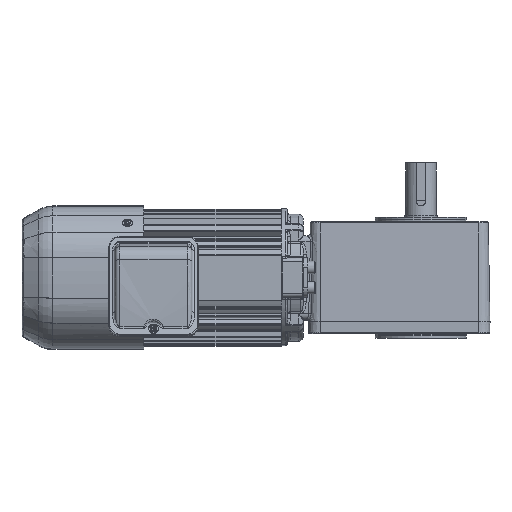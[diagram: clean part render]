
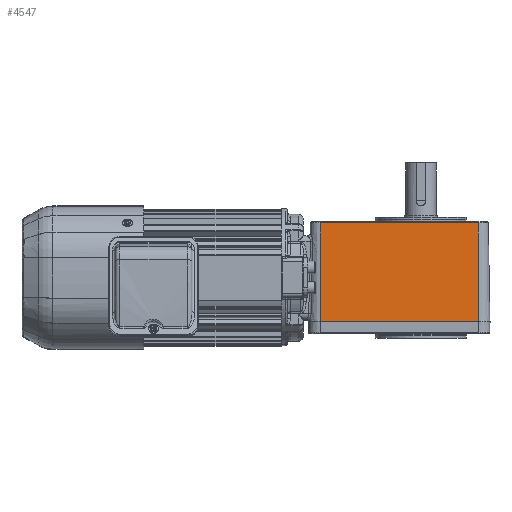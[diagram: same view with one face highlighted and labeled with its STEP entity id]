
A CAD part, top view. The second image highlights one B-rep face of the part: STEP entity #4547.
In plain terms, the highlighted planar face has unit normal (0, 0.018, 1).
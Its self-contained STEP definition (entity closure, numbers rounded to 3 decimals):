
#4547 = ADVANCED_FACE( '', ( #9571 ), #9572, .T. );
#9571 = FACE_OUTER_BOUND( '', #23950, .T. );
#9572 = PLANE( '', #23951 );
#23950 = EDGE_LOOP( '', ( #38385, #38386, #38387, #38388 ) );
#23951 = AXIS2_PLACEMENT_3D( '', #38389, #38390, #38391 );
#38385 = ORIENTED_EDGE( '', *, *, #44138, .F. );
#38386 = ORIENTED_EDGE( '', *, *, #43581, .T. );
#38387 = ORIENTED_EDGE( '', *, *, #41258, .T. );
#38388 = ORIENTED_EDGE( '', *, *, #40622, .F. );
#38389 = CARTESIAN_POINT( '', ( 13.942, -130.463, 67.834 ) );
#38390 = DIRECTION( '', ( 0., 0.017, 1. ) );
#38391 = DIRECTION( '', ( 0., -1., 0.017 ) );
#40622 = EDGE_CURVE( '', #46695, #46697, #46698, .T. );
#41258 = EDGE_CURVE( '', #47718, #46697, #47719, .T. );
#43581 = EDGE_CURVE( '', #50190, #47718, #51157, .T. );
#44138 = EDGE_CURVE( '', #50190, #46695, #51847, .T. );
#46695 = VERTEX_POINT( '', #56436 );
#46697 = VERTEX_POINT( '', #56438 );
#46698 = LINE( '', #56439, #56440 );
#47718 = VERTEX_POINT( '', #58613 );
#47719 = LINE( '', #58614, #58615 );
#50190 = VERTEX_POINT( '', #63151 );
#51157 = LINE( '', #65140, #65141 );
#51847 = LINE( '', #66772, #66773 );
#56436 = CARTESIAN_POINT( '', ( 96.442, -130.463, 67.834 ) );
#56438 = CARTESIAN_POINT( '', ( -68.558, -130.463, 67.834 ) );
#56439 = CARTESIAN_POINT( '', ( -68.558, -130.463, 67.834 ) );
#56440 = VECTOR( '', #69944, 1000. );
#58613 = CARTESIAN_POINT( '', ( -68.558, -27.463, 66.036 ) );
#58614 = CARTESIAN_POINT( '', ( -68.558, -130.463, 67.834 ) );
#58615 = VECTOR( '', #70847, 1000. );
#63151 = CARTESIAN_POINT( '', ( 96.442, -27.463, 66.036 ) );
#65140 = CARTESIAN_POINT( '', ( 13.942, -27.463, 66.036 ) );
#65141 = VECTOR( '', #74191, 1000. );
#66772 = CARTESIAN_POINT( '', ( 96.442, -130.463, 67.834 ) );
#66773 = VECTOR( '', #74947, 1000. );
#69944 = DIRECTION( '', ( -1., 0., 0. ) );
#70847 = DIRECTION( '', ( 0., -1., 0.017 ) );
#74191 = DIRECTION( '', ( -1., 0., 0. ) );
#74947 = DIRECTION( '', ( 0., -1., 0.017 ) );
